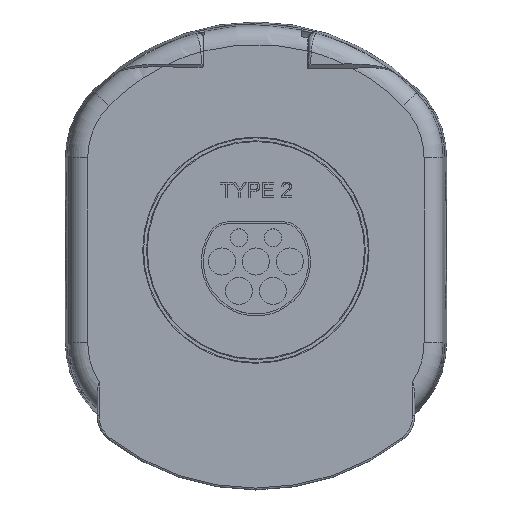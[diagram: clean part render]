
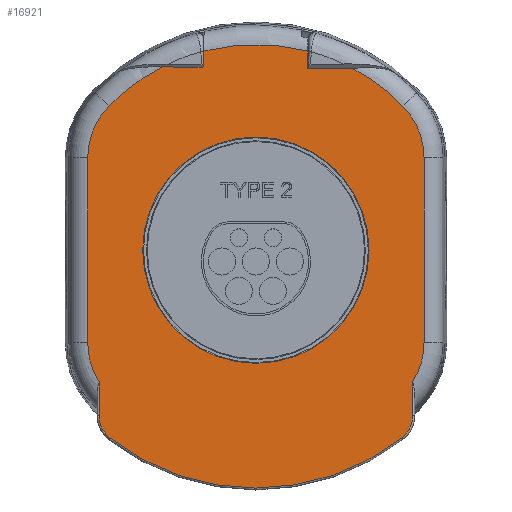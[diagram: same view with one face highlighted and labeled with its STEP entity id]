
A CAD part, top view. The second image highlights one B-rep face of the part: STEP entity #16921.
In plain terms, the highlighted planar face has unit normal (0, 0, 1).
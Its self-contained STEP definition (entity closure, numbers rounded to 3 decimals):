
#879=PLANE('',#64124);
#4297=FACE_BOUND('',#25260,.T.);
#4298=FACE_BOUND('',#25261,.T.);
#5311=ELLIPSE('',#64117,1.064,1.);
#8684=LINE('',#93117,#12831);
#8685=LINE('',#93119,#12832);
#8686=LINE('',#93122,#12833);
#8687=LINE('',#93124,#12834);
#8688=LINE('',#93128,#12835);
#8689=LINE('',#93132,#12836);
#8690=LINE('',#93138,#12837);
#8691=LINE('',#93139,#12838);
#12831=VECTOR('',#72340,1.);
#12832=VECTOR('',#72341,1.);
#12833=VECTOR('',#72344,1.);
#12834=VECTOR('',#72345,1.);
#12835=VECTOR('',#72348,1.);
#12836=VECTOR('',#72351,1.);
#12837=VECTOR('',#72356,1.);
#12838=VECTOR('',#72357,1.);
#16921=ADVANCED_FACE('',(#4297,#4298),#879,.F.);
#25260=EDGE_LOOP('',(#31170,#31171,#31172,#31173,#31174,#31175,#31176,#31177,
#31178,#31179,#31180,#31181,#31182,#31183,#31184,#31185,#31186,#31187,#31188));
#25261=EDGE_LOOP('',(#31189));
#31170=ORIENTED_EDGE('',*,*,#54545,.T.);
#31171=ORIENTED_EDGE('',*,*,#54347,.T.);
#31172=ORIENTED_EDGE('',*,*,#54546,.T.);
#31173=ORIENTED_EDGE('',*,*,#54547,.T.);
#31174=ORIENTED_EDGE('',*,*,#54538,.T.);
#31175=ORIENTED_EDGE('',*,*,#54548,.F.);
#31176=ORIENTED_EDGE('',*,*,#54549,.T.);
#31177=ORIENTED_EDGE('',*,*,#54550,.T.);
#31178=ORIENTED_EDGE('',*,*,#54551,.F.);
#31179=ORIENTED_EDGE('',*,*,#54552,.T.);
#31180=ORIENTED_EDGE('',*,*,#54553,.F.);
#31181=ORIENTED_EDGE('',*,*,#54554,.T.);
#31182=ORIENTED_EDGE('',*,*,#54555,.T.);
#31183=ORIENTED_EDGE('',*,*,#54556,.T.);
#31184=ORIENTED_EDGE('',*,*,#54355,.T.);
#31185=ORIENTED_EDGE('',*,*,#54557,.T.);
#31186=ORIENTED_EDGE('',*,*,#54558,.T.);
#31187=ORIENTED_EDGE('',*,*,#54559,.T.);
#31188=ORIENTED_EDGE('',*,*,#54560,.T.);
#31189=ORIENTED_EDGE('',*,*,#54561,.F.);
#48742=VERTEX_POINT('',#92307);
#48743=VERTEX_POINT('',#92308);
#48749=VERTEX_POINT('',#92334);
#48750=VERTEX_POINT('',#92336);
#48906=VERTEX_POINT('',#93102);
#48907=VERTEX_POINT('',#93104);
#48912=VERTEX_POINT('',#93118);
#48913=VERTEX_POINT('',#93120);
#48914=VERTEX_POINT('',#93123);
#48915=VERTEX_POINT('',#93125);
#48916=VERTEX_POINT('',#93127);
#48917=VERTEX_POINT('',#93129);
#48918=VERTEX_POINT('',#93131);
#48919=VERTEX_POINT('',#93133);
#48920=VERTEX_POINT('',#93135);
#48921=VERTEX_POINT('',#93137);
#48922=VERTEX_POINT('',#93140);
#48923=VERTEX_POINT('',#93142);
#48924=VERTEX_POINT('',#93144);
#48925=VERTEX_POINT('',#93147);
#54347=EDGE_CURVE('',#48742,#48743,#63247,.T.);
#54355=EDGE_CURVE('',#48750,#48749,#63251,.T.);
#54538=EDGE_CURVE('',#48907,#48906,#63267,.T.);
#54545=EDGE_CURVE('',#48912,#48742,#8684,.T.);
#54546=EDGE_CURVE('',#48743,#48913,#8685,.T.);
#54547=EDGE_CURVE('',#48913,#48907,#63270,.T.);
#54548=EDGE_CURVE('',#48914,#48906,#8686,.T.);
#54549=EDGE_CURVE('',#48914,#48915,#8687,.T.);
#54550=EDGE_CURVE('',#48915,#48916,#63271,.T.);
#54551=EDGE_CURVE('',#48917,#48916,#8688,.T.);
#54552=EDGE_CURVE('',#48917,#48918,#5311,.T.);
#54553=EDGE_CURVE('',#48919,#48918,#8689,.T.);
#54554=EDGE_CURVE('',#48919,#48920,#63272,.T.);
#54555=EDGE_CURVE('',#48920,#48921,#63273,.T.);
#54556=EDGE_CURVE('',#48921,#48750,#8690,.T.);
#54557=EDGE_CURVE('',#48749,#48922,#8691,.T.);
#54558=EDGE_CURVE('',#48922,#48923,#63274,.T.);
#54559=EDGE_CURVE('',#48923,#48924,#63275,.T.);
#54560=EDGE_CURVE('',#48924,#48912,#63276,.T.);
#54561=EDGE_CURVE('',#48925,#48925,#63277,.T.);
#63247=CIRCLE('',#64027,19.574);
#63251=CIRCLE('',#64032,19.574);
#63267=CIRCLE('',#64109,54.574);
#63270=CIRCLE('',#64115,19.574);
#63271=CIRCLE('',#64116,54.574);
#63272=CIRCLE('',#64118,54.574);
#63273=CIRCLE('',#64119,19.574);
#63274=CIRCLE('',#64120,7.5);
#63275=CIRCLE('',#64121,63.067);
#63276=CIRCLE('',#64122,7.5);
#63277=CIRCLE('',#64123,30.);
#64027=AXIS2_PLACEMENT_3D('',#92306,#72069,#72070);
#64032=AXIS2_PLACEMENT_3D('',#92335,#72079,#72080);
#64109=AXIS2_PLACEMENT_3D('',#93103,#72325,#72326);
#64115=AXIS2_PLACEMENT_3D('',#93121,#72342,#72343);
#64116=AXIS2_PLACEMENT_3D('',#93126,#72346,#72347);
#64117=AXIS2_PLACEMENT_3D('',#93130,#72349,#72350);
#64118=AXIS2_PLACEMENT_3D('',#93134,#72352,#72353);
#64119=AXIS2_PLACEMENT_3D('',#93136,#72354,#72355);
#64120=AXIS2_PLACEMENT_3D('',#93141,#72358,#72359);
#64121=AXIS2_PLACEMENT_3D('',#93143,#72360,#72361);
#64122=AXIS2_PLACEMENT_3D('',#93145,#72362,#72363);
#64123=AXIS2_PLACEMENT_3D('',#93146,#72364,#72365);
#64124=AXIS2_PLACEMENT_3D('',#93148,#72366,#72367);
#72069=DIRECTION('',(0.,0.,1.));
#72070=DIRECTION('',(1.,0.,0.));
#72079=DIRECTION('',(0.,0.,1.));
#72080=DIRECTION('',(1.,0.,0.));
#72325=DIRECTION('',(0.,0.,1.));
#72326=DIRECTION('',(1.,0.,0.));
#72340=DIRECTION('',(0.,1.,0.));
#72341=DIRECTION('',(0.,1.,0.));
#72342=DIRECTION('',(0.,0.,1.));
#72343=DIRECTION('',(1.,0.,0.));
#72344=DIRECTION('',(1.,0.009,0.));
#72345=DIRECTION('',(0.,1.,0.));
#72346=DIRECTION('',(0.,0.,1.));
#72347=DIRECTION('',(1.,0.,0.));
#72348=DIRECTION('',(0.,1.,0.));
#72349=DIRECTION('',(0.,0.,-1.));
#72350=DIRECTION('',(-0.024,1.,0.));
#72351=DIRECTION('',(1.,-0.019,0.));
#72352=DIRECTION('',(0.,0.,1.));
#72353=DIRECTION('',(1.,0.,0.));
#72354=DIRECTION('',(0.,0.,1.));
#72355=DIRECTION('',(1.,0.,0.));
#72356=DIRECTION('',(0.,-1.,0.));
#72357=DIRECTION('',(0.,-1.,0.));
#72358=DIRECTION('',(0.,0.,1.));
#72359=DIRECTION('',(1.,0.,0.));
#72360=DIRECTION('',(0.,0.,1.));
#72361=DIRECTION('',(1.,0.,0.));
#72362=DIRECTION('',(0.,0.,1.));
#72363=DIRECTION('',(1.,0.,0.));
#72364=DIRECTION('',(0.,0.,1.));
#72365=DIRECTION('',(1.,0.,0.));
#72366=DIRECTION('',(0.,0.,-1.));
#72367=DIRECTION('',(1.,0.,0.));
#92306=CARTESIAN_POINT('',(-151.912,-4.953,11.));
#92307=CARTESIAN_POINT('',(-135.338,-15.367,11.));
#92308=CARTESIAN_POINT('',(-132.338,-4.953,11.));
#92334=CARTESIAN_POINT('',(-218.486,-15.367,11.));
#92335=CARTESIAN_POINT('',(-201.912,-4.953,11.));
#92336=CARTESIAN_POINT('',(-221.486,-4.953,11.));
#93102=CARTESIAN_POINT('',(-151.46,67.817,11.));
#93103=CARTESIAN_POINT('',(-176.912,19.542,11.));
#93104=CARTESIAN_POINT('',(-137.93,57.736,11.));
#93117=CARTESIAN_POINT('',(-135.338,-4.953,11.));
#93118=CARTESIAN_POINT('',(-135.338,-24.352,11.));
#93119=CARTESIAN_POINT('',(-132.338,44.037,11.));
#93120=CARTESIAN_POINT('',(-132.338,44.037,11.));
#93121=CARTESIAN_POINT('',(-151.912,44.037,11.));
#93122=CARTESIAN_POINT('',(-152.547,67.808,11.));
#93123=CARTESIAN_POINT('',(-163.142,67.715,11.));
#93124=CARTESIAN_POINT('',(-163.142,14.266,11.));
#93125=CARTESIAN_POINT('',(-163.142,72.35,11.));
#93126=CARTESIAN_POINT('',(-176.912,19.542,11.));
#93127=CARTESIAN_POINT('',(-190.684,72.349,11.));
#93128=CARTESIAN_POINT('',(-190.684,-4.953,11.));
#93129=CARTESIAN_POINT('',(-190.684,68.319,11.));
#93130=CARTESIAN_POINT('',(-191.434,69.025,11.));
#93131=CARTESIAN_POINT('',(-191.449,67.961,11.));
#93132=CARTESIAN_POINT('',(-190.384,67.941,11.));
#93133=CARTESIAN_POINT('',(-201.719,68.152,11.));
#93134=CARTESIAN_POINT('',(-176.912,19.542,11.));
#93135=CARTESIAN_POINT('',(-215.893,57.736,11.));
#93136=CARTESIAN_POINT('',(-201.912,44.037,11.));
#93137=CARTESIAN_POINT('',(-221.486,44.037,11.));
#93138=CARTESIAN_POINT('',(-221.486,-4.953,11.));
#93139=CARTESIAN_POINT('',(-218.486,-4.953,11.));
#93140=CARTESIAN_POINT('',(-218.486,-24.352,11.));
#93141=CARTESIAN_POINT('',(-210.986,-24.352,11.));
#93142=CARTESIAN_POINT('',(-215.585,-30.276,11.));
#93143=CARTESIAN_POINT('',(-176.912,19.542,11.));
#93144=CARTESIAN_POINT('',(-138.239,-30.276,11.));
#93145=CARTESIAN_POINT('',(-142.838,-24.352,11.));
#93146=CARTESIAN_POINT('',(-176.912,19.542,11.));
#93147=CARTESIAN_POINT('',(-146.912,19.542,11.));
#93148=CARTESIAN_POINT('',(-151.912,-4.953,11.));
